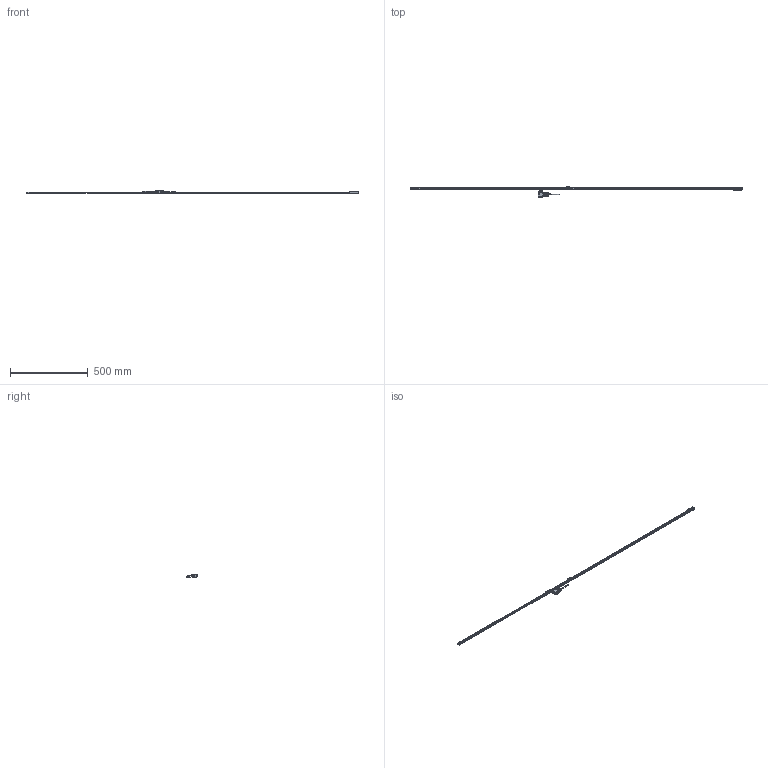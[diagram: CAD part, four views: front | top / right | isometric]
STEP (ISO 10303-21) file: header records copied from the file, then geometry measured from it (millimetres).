
FILE_DESCRIPTION(('Creo Elements/Direct Modeling STEP Export'),'2;1');
FILE_NAME('ST46EZA-2000D.stp','2018-03-22T17:53:58',(''),(''),'Creo Elements/Direct Modeling STEP processor for AP214 (Solid Model)','Creo Elements/Direct Modeling 18.1B 29-Sep-2012 (C) Parametric Technology GmbH','');
FILE_SCHEMA(('AUTOMOTIVE_DESIGN { 1 0 10303 214 1 1 1 1 }'));
Length unit declared in the file: millimetre
Products named in the file (4): Scale_2000; Detector_Head; IF_Unit; ST46EZA-2000D
Assembly tree (3 placements, depth 2):
  ST46EZA-2000D
    IF_Unit
    Detector_Head
    Scale_2000
Bounding box: 2142 x 74.86 x 18.68 mm (x, y, z)
Volume: 3158.7 mm3; surface area: 125869.2 mm2
Topology: 1 solids, 4 shells, 2679 faces, 7184 edges, 4689 vertices
Faces by surface type: plane 1596, cylinder 894, extrusion 88, cone 38, torus 30, bspline 29, revolution 4
Entity records: 90192 total; most frequent: CARTESIAN_POINT 23533, ORIENTED_EDGE 14363, DIRECTION 12686, EDGE_CURVE 7186, VECTOR 4760, VERTEX_POINT 4693, LINE 4692, AXIS2_PLACEMENT_3D 3960
